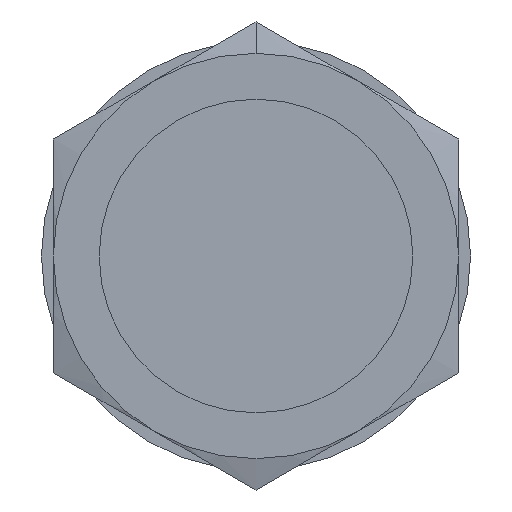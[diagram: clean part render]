
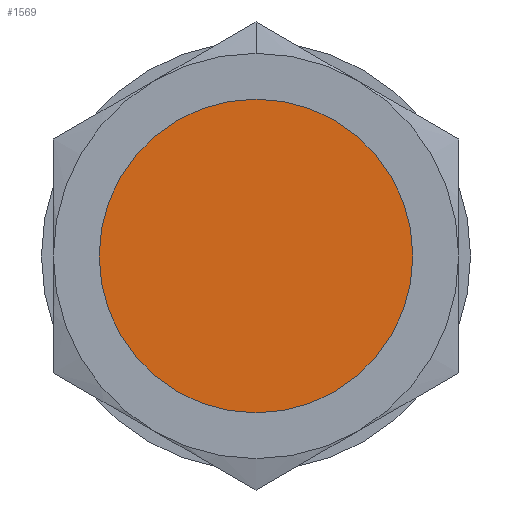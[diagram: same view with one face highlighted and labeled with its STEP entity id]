
A CAD part, front view. The second image highlights one B-rep face of the part: STEP entity #1569.
In plain terms, the highlighted planar face has unit normal (0, -1, 0).
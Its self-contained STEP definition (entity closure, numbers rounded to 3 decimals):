
#9 = FACE_OUTER_BOUND ( 'NONE', #337, .T. ) ;
#37 = DIRECTION ( 'NONE',  ( 0., -1., 0. ) ) ;
#179 = AXIS2_PLACEMENT_3D ( 'NONE', #1377, #583, #1667 ) ;
#199 = CIRCLE ( 'NONE', #1012, 6.579 ) ;
#259 = CARTESIAN_POINT ( 'NONE',  ( 6.579, -5.5, 0. ) ) ;
#284 = DIRECTION ( 'NONE',  ( 0., 1., 0. ) ) ;
#298 = CARTESIAN_POINT ( 'NONE',  ( 0., -5.5, -6.579 ) ) ;
#316 = CIRCLE ( 'NONE', #179, 6.579 ) ;
#337 = EDGE_LOOP ( 'NONE', ( #360, #431 ) ) ;
#360 = ORIENTED_EDGE ( 'NONE', *, *, #531, .T. ) ;
#367 = AXIS2_PLACEMENT_3D ( 'NONE', #259, #284, #800 ) ;
#431 = ORIENTED_EDGE ( 'NONE', *, *, #730, .T. ) ;
#465 = VERTEX_POINT ( 'NONE', #1047 ) ;
#531 = EDGE_CURVE ( 'NONE', #727, #465, #199, .T. ) ;
#583 = DIRECTION ( 'NONE',  ( 0., -1., 0. ) ) ;
#727 = VERTEX_POINT ( 'NONE', #298 ) ;
#730 = EDGE_CURVE ( 'NONE', #465, #727, #316, .T. ) ;
#800 = DIRECTION ( 'NONE',  ( 1., 0., 0. ) ) ;
#1012 = AXIS2_PLACEMENT_3D ( 'NONE', #1227, #37, #1495 ) ;
#1047 = CARTESIAN_POINT ( 'NONE',  ( 0., -5.5, 6.579 ) ) ;
#1227 = CARTESIAN_POINT ( 'NONE',  ( 0., -5.5, 0. ) ) ;
#1377 = CARTESIAN_POINT ( 'NONE',  ( 0., -5.5, 0. ) ) ;
#1480 = PLANE ( 'NONE',  #367 ) ;
#1495 = DIRECTION ( 'NONE',  ( 0., 0., -1. ) ) ;
#1569 = ADVANCED_FACE ( 'NONE', ( #9 ), #1480, .F. ) ;
#1667 = DIRECTION ( 'NONE',  ( 0., 0., -1. ) ) ;
